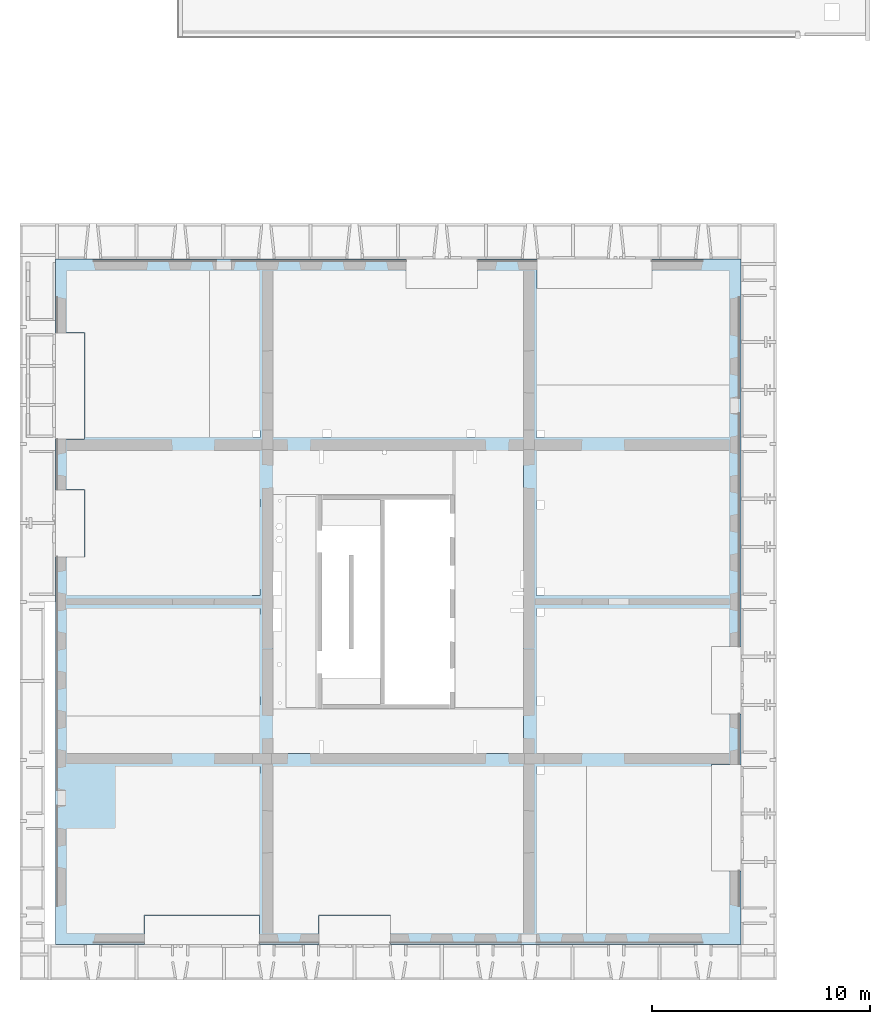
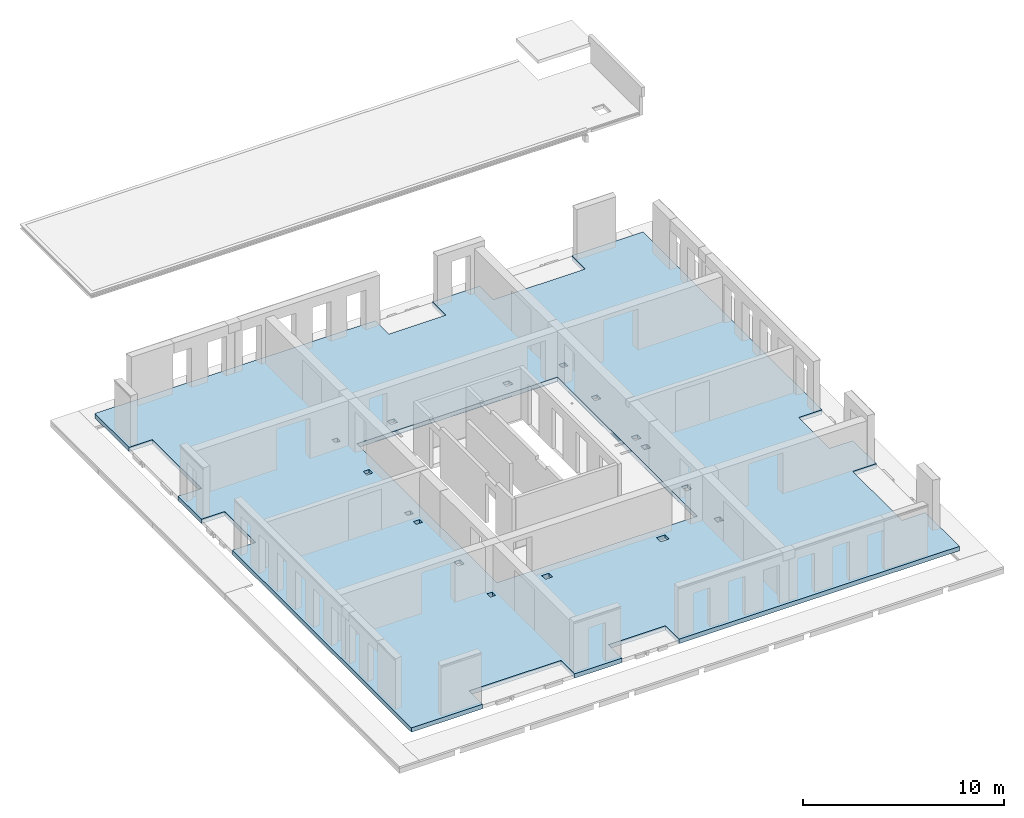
# One storey, part 25 of 27: 1 slab.
"""IFC2X3 building model written with IfcOpenShell, lengths in millimetres."""

import ifcopenshell
import ifcopenshell.guid

model = None  # the IFC model being written
_history = None  # IfcOwnerHistory: only IFC2X3 demands one
_inside = {}  # id of a spatial element -> (the spatial element, [elements in it])
_under = {}  # id of a project, library or spatial element -> (it, [spatial elements below it])
_declared = {}  # id of a project -> (the project, [libraries it declares])
_typed = {}  # id of a type object -> (the type object, [elements of that type])
_made_of = {}  # id of a material, layer set ... -> (it, [elements and type objects made of it])


def new_model(schema):
    """Start an empty IFC model of exactly this schema.

    Asked for "IFC4X3", IfcOpenShell would pick the latest addendum, in which some entities
    have other attributes; the version numbers below select the first issue.
    IFC2X3 requires an IfcOwnerHistory on every rooted entity: one is made here for all.
    """
    global model, _history
    if schema == "IFC4X3":
        model = ifcopenshell.file(schema_version=(4, 3, 0, 0))
    else:
        model = ifcopenshell.file(schema=schema)
    _inside.clear()
    _under.clear()
    _declared.clear()
    _typed.clear()
    _made_of.clear()
    _history = None
    if model.schema == "IFC2X3":
        org = make("IfcOrganization", Name="unknown")
        user = make(
            "IfcPersonAndOrganization",
            ThePerson=make("IfcPerson", FamilyName="unknown"),
            TheOrganization=org,
        )
        app = make(
            "IfcApplication",
            ApplicationDeveloper=org,
            Version="unknown",
            ApplicationFullName="unknown",
            ApplicationIdentifier="unknown",
        )
        _history = make(
            "IfcOwnerHistory",
            OwningUser=user,
            OwningApplication=app,
            ChangeAction="ADDED",
            CreationDate=0,
        )
    return model


def make(cls, **values):
    """One entity of the class cls with the attributes given. An attribute that is None is left unset."""
    return model.create_entity(
        cls, **{name: value for name, value in values.items() if value is not None}
    )


def entity(cls, *values):
    """Any entity or typed value of the class cls, its attributes in the order of the schema. None: left unset."""
    e = model.create_entity(cls)
    for i, value in enumerate(values):
        if value is not None:
            e[i] = value
    return e


def rooted(cls, **values):
    """An entity with a GlobalId (a new one), such as an element, a storey or a relation."""
    return make(cls, GlobalId=ifcopenshell.guid.new(), OwnerHistory=_history, **values)


def si_unit(unit_type, name, prefix=None):
    """IfcSIUnit, for example si_unit("LENGTHUNIT", "METRE", prefix="MILLI")."""
    return make("IfcSIUnit", UnitType=unit_type, Prefix=prefix, Name=name)


def converted_unit(unit_type, name, factor, base, dimensions=None, offset=None):
    """IfcConversionBasedUnit, such as the inch: factor (a typed value) times the base unit."""
    return make(
        "IfcConversionBasedUnit"
        if offset is None
        else "IfcConversionBasedUnitWithOffset",
        ConversionOffset=offset,
        Dimensions=None
        if dimensions is None
        else entity("IfcDimensionalExponents", *dimensions),
        UnitType=unit_type,
        Name=name,
        ConversionFactor=make(
            "IfcMeasureWithUnit", ValueComponent=factor, UnitComponent=base
        ),
    )


def derived_unit(unit_type, elements):
    """IfcDerivedUnit: a product of units, each with its exponent."""
    return make(
        "IfcDerivedUnit",
        Elements=[
            make("IfcDerivedUnitElement", Unit=unit, Exponent=power)
            for unit, power in elements
        ],
        UnitType=unit_type,
    )


def assignment(units):
    """IfcUnitAssignment: the units of a project."""
    return None if units is None else make("IfcUnitAssignment", Units=units)


def point(xyz):
    """IfcCartesianPoint."""
    return None if xyz is None else make("IfcCartesianPoint", Coordinates=xyz)


def direction(xyz):
    """IfcDirection."""
    return None if xyz is None else make("IfcDirection", DirectionRatios=xyz)


def frame(location, z_axis=None, x_axis=None):
    """IfcAxis2Placement3D, a coordinate frame: its origin and axes. An axis left out is left unset."""
    return make(
        "IfcAxis2Placement3D",
        Location=point(location),
        Axis=direction(z_axis),
        RefDirection=direction(x_axis),
    )


def origin():
    """The frame at (0, 0, 0) with its axes left unset."""
    return frame((0.0, 0.0, 0.0))


def place(relative_to, where):
    """IfcLocalPlacement: puts the frame where relative to a parent placement (None: the world)."""
    return make(
        "IfcLocalPlacement", PlacementRelTo=relative_to, RelativePlacement=where
    )


def context(
    kind, dimensions, precision=None, world=None, true_north=None, identifier=None
):
    """IfcGeometricRepresentationContext, for example the 3D "Model" context."""
    return make(
        "IfcGeometricRepresentationContext",
        ContextIdentifier=identifier,
        ContextType=kind,
        CoordinateSpaceDimension=dimensions,
        Precision=precision,
        WorldCoordinateSystem=world,
        TrueNorth=true_north,
    )


def subcontext(parent, identifier, kind, view, scale=None):
    """IfcGeometricRepresentationSubContext, for example "Body" below "Model"."""
    return make(
        "IfcGeometricRepresentationSubContext",
        ContextIdentifier=identifier,
        ContextType=kind,
        ParentContext=parent,
        TargetScale=scale,
        TargetView=view,
    )


def project(units=None, contexts=None):
    """IfcProject with its units and contexts."""
    return rooted(
        "IfcProject",
        Name="project",
        RepresentationContexts=contexts,
        UnitsInContext=assignment(units),
    )


def spatial(cls, under=None, at=None, **own):
    """A site, building, storey or space (cls), placed at a placement, below another one or the project."""
    s = rooted(cls, ObjectPlacement=at, **own)
    if under is not None:
        _under.setdefault(under.id(), (under, []))[1].append(s)
    return s


def faces_of(points, faces, orient=None, outer=None):
    """IfcFace entities. A face is a list of loops; a loop is a list of indices into points, from 0.

    orient and outer hold one flag for each loop. By default every Orientation is true, the
    first loop of a face is its IfcFaceOuterBound and the others are IfcFaceBound.
    """
    made = []
    for i, loops in enumerate(faces):
        bounds = []
        for j, loop in enumerate(loops):
            is_outer = j == 0 if outer is None else outer[i][j]
            bounds.append(
                make(
                    "IfcFaceOuterBound" if is_outer else "IfcFaceBound",
                    Bound=make("IfcPolyLoop", Polygon=[points[k] for k in loop]),
                    Orientation=True if orient is None else orient[i][j],
                )
            )
        made.append(make("IfcFace", Bounds=bounds))
    return made


def faceted_brep(points, faces, orient=None, outer=None, voids=None):
    """IfcFacetedBrep: a solid bounded by flat faces; with voids (closed shells), ...WithVoids."""
    shared = [point(p) for p in points]
    hull = make("IfcClosedShell", CfsFaces=faces_of(shared, faces, orient, outer))
    if voids is None:
        return make("IfcFacetedBrep", Outer=hull)
    return make(
        "IfcFacetedBrepWithVoids",
        Outer=hull,
        Voids=[
            make(cls, CfsFaces=faces_of(shared, fs, o, b)) for cls, fs, o, b in voids
        ],
    )


def shape(context_of_items, identifier, shape_type, items):
    """IfcShapeRepresentation: the items that make up one representation, for example the "Body"."""
    return make(
        "IfcShapeRepresentation",
        ContextOfItems=context_of_items,
        RepresentationIdentifier=identifier,
        RepresentationType=shape_type,
        Items=items,
    )


def material(Name=None, Category=None):
    """IfcMaterial."""
    return make("IfcMaterial", Name=Name, Category=Category)


def made_of(thing, what):
    """Note that an element or type object is made of a material, layer set ...; save() writes the relation."""
    if what is not None:
        _made_of.setdefault(what.id(), (what, []))[1].append(thing)
    return thing


def element(
    cls,
    number,
    at=None,
    inside=None,
    cuts=None,
    type_object=None,
    material=None,
    context=None,
    identifier="Body",
    shape_type=None,
    held_by="IfcProductDefinitionShape",
    body=None,
    shapes=None,
    **own,
):
    """One element of the class cls, such as IfcWall. Its Tag is "e" and its number.

    at: its placement. inside: the storey or other place that contains it. cuts: it is an
    opening in that element (IfcRelVoidsElement). A single representation is given by context,
    identifier, shape_type and body (its items); several are given by shapes. held_by: the class
    of the entity that holds the representations. save() writes the other relations.
    """
    e = rooted(cls, Tag="e%d" % number, ObjectPlacement=at, **own)
    if body is not None:
        shapes = [shape(context, identifier, shape_type, body)]
    if shapes is not None:
        e.Representation = make(held_by, Representations=shapes)
    if inside is not None:
        _inside.setdefault(inside.id(), (inside, []))[1].append(e)
    if cuts is not None:
        rooted(
            "IfcRelVoidsElement", RelatingBuildingElement=cuts, RelatedOpeningElement=e
        )
    if type_object is not None:
        _typed.setdefault(type_object.id(), (type_object, []))[1].append(e)
    return made_of(e, material)


def aggregate(whole, parts):
    """IfcRelAggregates: a whole, such as a stair, and the parts it consists of."""
    return rooted("IfcRelAggregates", RelatingObject=whole, RelatedObjects=parts)


def save(model, path):
    """Write the relations noted so far, then the file.

    IfcRelAggregates (storeys below a building ...), IfcRelContainedInSpatialStructure (elements
    in a storey), IfcRelDefinesByType, IfcRelAssociatesMaterial and IfcRelDeclares: one each for
    every whole, place, type object, material and project.
    """
    for whole, parts in _under.values():
        aggregate(whole, parts)
    for where, things in _inside.values():
        rooted(
            "IfcRelContainedInSpatialStructure",
            RelatedElements=things,
            RelatingStructure=where,
        )
    for kind, things in _typed.values():
        rooted("IfcRelDefinesByType", RelatedObjects=things, RelatingType=kind)
    for what, things in _made_of.values():
        rooted("IfcRelAssociatesMaterial", RelatedObjects=things, RelatingMaterial=what)
    for by, libraries in _declared.values():
        rooted("IfcRelDeclares", RelatingContext=by, RelatedDefinitions=libraries)
    model.write(path)


model = new_model("IFC2X3")

# Units and contexts
model_context = context("Model", 3, precision=0.01, world=origin(), true_north=direction((6.12303176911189e-17, 1.0)))
body_context = subcontext(model_context, "Body", "Model", "MODEL_VIEW")
ifc_project = project(units=[si_unit("LENGTHUNIT", "METRE", prefix="MILLI"), si_unit("AREAUNIT", "SQUARE_METRE"), si_unit("VOLUMEUNIT", "CUBIC_METRE"), converted_unit("PLANEANGLEUNIT", "DEGREE", entity("IfcRatioMeasure", 0.0174532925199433), si_unit("PLANEANGLEUNIT", "RADIAN"), dimensions=[0, 0, 0, 0, 0, 0, 0]), si_unit("MASSUNIT", "GRAM", prefix="KILO"), derived_unit("MASSDENSITYUNIT", [(si_unit("MASSUNIT", "GRAM", prefix="KILO"), 1), (si_unit("LENGTHUNIT", "METRE"), -3)]), si_unit("TIMEUNIT", "SECOND"), si_unit("FREQUENCYUNIT", "HERTZ"), si_unit("THERMODYNAMICTEMPERATUREUNIT", "DEGREE_CELSIUS"), derived_unit("THERMALTRANSMITTANCEUNIT", [(si_unit("MASSUNIT", "GRAM", prefix="KILO"), 1), (si_unit("THERMODYNAMICTEMPERATUREUNIT", "KELVIN"), -1), (si_unit("TIMEUNIT", "SECOND"), -3)]), derived_unit("VOLUMETRICFLOWRATEUNIT", [(si_unit("LENGTHUNIT", "METRE"), 3), (si_unit("TIMEUNIT", "SECOND"), -1)]), si_unit("ELECTRICCURRENTUNIT", "AMPERE"), si_unit("ELECTRICVOLTAGEUNIT", "VOLT"), si_unit("POWERUNIT", "WATT"), si_unit("FORCEUNIT", "NEWTON", prefix="KILO"), si_unit("ILLUMINANCEUNIT", "LUX"), si_unit("LUMINOUSFLUXUNIT", "LUMEN"), si_unit("LUMINOUSINTENSITYUNIT", "CANDELA"), derived_unit("USERDEFINED", [(si_unit("MASSUNIT", "GRAM", prefix="KILO"), -1), (si_unit("LENGTHUNIT", "METRE"), -2), (si_unit("TIMEUNIT", "SECOND"), 3), (si_unit("LUMINOUSFLUXUNIT", "LUMEN"), 1)]), derived_unit("LINEARVELOCITYUNIT", [(si_unit("LENGTHUNIT", "METRE"), 1), (si_unit("TIMEUNIT", "SECOND"), -1)]), si_unit("PRESSUREUNIT", "PASCAL"), derived_unit("USERDEFINED", [(si_unit("LENGTHUNIT", "METRE"), -2), (si_unit("MASSUNIT", "GRAM", prefix="KILO"), 1), (si_unit("TIMEUNIT", "SECOND"), -2)])], contexts=[model_context])

# Site, building, storey
site_placement = place(None, origin())
site = spatial("IfcSite", under=ifc_project, at=site_placement, Name="Default", CompositionType="ELEMENT")
building_placement = place(site_placement, origin())
building = spatial("IfcBuilding", under=site, at=building_placement, Name="niet gebruiken", CompositionType="ELEMENT")
storey_placement = place(building_placement, frame((0.0, 0.0, 18000.0)))
storey = spatial("IfcBuildingStorey", under=building, at=storey_placement, Name="05 vijfde verdieping", CompositionType="ELEMENT", Elevation=18000.0)

# Slab
ifc_material = material(Name="NLRS_f2_beton ihwg")
slab_placement = place(storey_placement, origin())
element("IfcSlab", 1, at=slab_placement, inside=storey, material=ifc_material, Name="Floor:NLRS_23.21_FL_beton breedplaat d=70/270_gen", ObjectType="Floor:NLRS_23.21_FL_beton breedplaat d=70/270_gen", PredefinedType="FLOOR", context=body_context, shape_type="Brep", body=[
    faceted_brep([(126540.0, 2290.0, -360.0), (130100.0, 2290.0, -360.0), (130100.0, 3125.0, -360.0), (135410.0, 3125.0, -360.0), (135410.0, 9960.0, -360.0), (128760.0, 9960.0, -360.0), (128760.0, 7130.0, -360.0), (126540.0, 7130.0, -360.0), (148090.0, 9960.0, -360.0), (148090.0, 2290.0, -360.0), (150400.0, 2290.0, -360.0), (156960.0, 2290.0, -360.0), (156960.0, 5150.0, -360.0), (156125.0, 5150.0, -360.0), (156125.0, 9960.0, -360.0), (150400.0, 9960.0, -360.0), (135990.0, 9960.0, -360.0), (135990.0, 2290.0, -360.0), (138100.0, 2290.0, -360.0), (138100.0, 3125.0, -360.0), (141400.0, 3125.0, -360.0), (141400.0, 2290.0, -360.0), (147510.0, 2290.0, -360.0), (147510.0, 9960.0, -360.0), (126540.0, 10540.0, -360.0), (135410.0, 10540.0, -360.0), (135410.0, 12266.0, -360.0), (135410.0, 17210.0, -360.0), (126540.0, 17210.0, -360.0), (126540.0, 12266.0, -360.0), (148090.0, 25040.0, -360.0), (156960.0, 25040.0, -360.0), (156960.0, 27440.0, -360.0), (156960.0, 32710.0, -360.0), (153400.0, 32710.0, -360.0), (153400.0, 31875.0, -360.0), (148090.0, 31875.0, -360.0), (148090.0, 27440.0, -360.0), (148090.0, 10540.0, -360.0), (156960.0, 10540.0, -360.0), (156960.0, 12350.0, -360.0), (156125.0, 12350.0, -360.0), (156125.0, 15450.0, -360.0), (156960.0, 15450.0, -360.0), (156960.0, 17210.0, -360.0), (148090.0, 17210.0, -360.0), (148090.0, 17790.0, -360.0), (156960.0, 17790.0, -360.0), (156960.0, 24460.0, -360.0), (148090.0, 24460.0, -360.0), (135410.0, 25040.0, -360.0), (135410.0, 32710.0, -360.0), (133100.0, 32710.0, -360.0), (126540.0, 32710.0, -360.0), (126540.0, 29850.0, -360.0), (127375.0, 29850.0, -360.0), (127375.0, 25040.0, -360.0), (133100.0, 25040.0, -360.0), (135990.0, 25040.0, -360.0), (147510.0, 25040.0, -360.0), (147510.0, 32710.0, -360.0), (145400.0, 32710.0, -360.0), (145400.0, 31875.0, -360.0), (142100.0, 31875.0, -360.0), (142100.0, 32710.0, -360.0), (135990.0, 32710.0, -360.0), (135410.0, 17790.0, -360.0), (135410.0, 24460.0, -360.0), (126540.0, 24460.0, -360.0), (126540.0, 22650.0, -360.0), (127375.0, 22650.0, -360.0), (127375.0, 19550.0, -360.0), (126540.0, 19550.0, -360.0), (126540.0, 17790.0, -360.0), (147500.0, 24450.0, -360.0), (136000.0, 24450.0, -360.0), (136000.0, 17800.0, -360.0), (136000.0, 17200.0, -360.0), (136000.0, 10550.0, -360.0), (147500.0, 10550.0, -360.0), (147500.0, 17200.0, -360.0), (147500.0, 17800.0, -360.0), (126020.0, 29840.0, -360.0), (126020.0, 33230.0, -360.0), (126520.0, 33230.0, -360.0), (142110.0, 33230.0, -360.0), (142110.0, 31885.0, -360.0), (145390.0, 31885.0, -360.0), (145390.0, 33230.0, -360.0), (148110.0, 33230.0, -360.0), (148110.0, 31885.0, -360.0), (153390.0, 31885.0, -360.0), (153390.0, 33230.0, -360.0), (156980.0, 33230.0, -360.0), (157480.0, 33230.0, -360.0), (157480.0, 15440.0, -360.0), (156135.0, 15440.0, -360.0), (156135.0, 12360.0, -360.0), (157480.0, 12360.0, -360.0), (157480.0, 10040.0, -360.0), (156135.0, 10040.0, -360.0), (156135.0, 5160.0, -360.0), (157480.0, 5160.0, -360.0), (157480.0, 1770.0, -360.0), (156980.0, 1770.0, -360.0), (141390.0, 1770.0, -360.0), (141390.0, 3115.0, -360.0), (138110.0, 3115.0, -360.0), (138110.0, 1770.0, -360.0), (135390.0, 1770.0, -360.0), (135390.0, 3115.0, -360.0), (130110.0, 3115.0, -360.0), (130110.0, 1770.0, -360.0), (126520.0, 1770.0, -360.0), (126020.0, 1770.0, -360.0), (126020.0, 17800.0, -360.0), (126020.0, 19560.0, -360.0), (127365.0, 19560.0, -360.0), (127365.0, 22640.0, -360.0), (126020.0, 22640.0, -360.0), (126020.0, 24960.0, -360.0), (127365.0, 24960.0, -360.0), (127365.0, 29840.0, -360.0), (126020.0, 33230.0, -90.0), (126020.0, 29840.0, -90.0), (127365.0, 29840.0, -90.0), (127365.0, 24960.0, -90.0), (126020.0, 24960.0, -90.0), (126020.0, 22640.0, -90.0), (127365.0, 22640.0, -90.0), (127365.0, 19560.0, -90.0), (126020.0, 19560.0, -90.0), (126020.0, 1770.0, -90.0), (130110.0, 1770.0, -90.0), (130110.0, 3115.0, -90.0), (135390.0, 3115.0, -90.0), (135390.0, 1770.0, -90.0), (138110.0, 1770.0, -90.0), (138110.0, 3115.0, -90.0), (141390.0, 3115.0, -90.0), (141390.0, 1770.0, -90.0), (157480.0, 1770.0, -90.0), (157480.0, 5160.0, -90.0), (156135.0, 5160.0, -90.0), (156135.0, 10040.0, -90.0), (157480.0, 10040.0, -90.0), (157480.0, 12360.0, -90.0), (156135.0, 12360.0, -90.0), (156135.0, 15440.0, -90.0), (157480.0, 15440.0, -90.0), (157480.0, 33230.0, -90.0), (153390.0, 33230.0, -90.0), (153390.0, 31885.0, -90.0), (148110.0, 31885.0, -90.0), (148110.0, 33230.0, -90.0), (145390.0, 33230.0, -90.0), (145390.0, 31885.0, -90.0), (142110.0, 31885.0, -90.0), (142110.0, 33230.0, -90.0), (135090.0, 25370.0, -90.0), (135400.0, 25370.0, -90.0), (135400.0, 25050.0, -90.0), (135090.0, 25050.0, -90.0), (135050.0, 21860.0, -90.0), (135050.0, 22210.0, -90.0), (135400.0, 22210.0, -90.0), (135400.0, 21860.0, -90.0), (135050.0, 17200.0, -90.0), (135400.0, 17200.0, -90.0), (135400.0, 16920.0, -90.0), (135050.0, 16920.0, -90.0), (135050.0, 12765.0, -90.0), (135050.0, 13165.0, -90.0), (135400.0, 13165.0, -90.0), (135400.0, 12765.0, -90.0), (135080.0, 9950.0, -90.0), (135400.0, 9950.0, -90.0), (135400.0, 9620.0, -90.0), (135080.0, 9620.0, -90.0), (138225.0, 9950.0, -90.0), (138645.0, 9950.0, -90.0), (138645.0, 9590.0, -90.0), (138225.0, 9590.0, -90.0), (144815.0, 9950.0, -90.0), (145315.0, 9950.0, -90.0), (145315.0, 9550.0, -90.0), (144815.0, 9550.0, -90.0), (148100.0, 9950.0, -90.0), (148460.0, 9950.0, -90.0), (148460.0, 9590.0, -90.0), (148100.0, 9590.0, -90.0), (148100.0, 12735.0, -90.0), (148100.0, 13165.0, -90.0), (148450.0, 13165.0, -90.0), (148450.0, 12735.0, -90.0), (148100.0, 17200.0, -90.0), (148450.0, 17200.0, -90.0), (148450.0, 16850.0, -90.0), (148100.0, 16850.0, -90.0), (148450.0, 22145.0, -90.0), (148450.0, 21765.0, -90.0), (148100.0, 21765.0, -90.0), (148100.0, 22145.0, -90.0), (148100.0, 25370.0, -90.0), (148460.0, 25370.0, -90.0), (148460.0, 25050.0, -90.0), (148100.0, 25050.0, -90.0), (144905.0, 25390.0, -90.0), (145275.0, 25390.0, -90.0), (145275.0, 25050.0, -90.0), (144905.0, 25050.0, -90.0), (138275.0, 25390.0, -90.0), (138675.0, 25390.0, -90.0), (138675.0, 25050.0, -90.0), (138275.0, 25050.0, -90.0), (135050.0, 18080.0, -90.0), (135400.0, 18080.0, -90.0), (135400.0, 17800.0, -90.0), (135050.0, 17800.0, -90.0), (148100.0, 18150.0, -90.0), (148450.0, 18150.0, -90.0), (148450.0, 17800.0, -90.0), (148100.0, 17800.0, -90.0), (136000.0, 24450.0, -90.0), (138150.0, 24450.0, -90.0), (138300.0, 24450.0, -90.0), (145200.02189507, 24450.0, -90.0), (145350.02189507, 24450.0, -90.0), (147500.0, 24450.0, -90.0), (147500.0, 18925.0, -90.0), (147500.0, 18125.0, -90.0), (147500.0, 17950.0, -90.0), (147500.0, 17800.0, -90.0), (147500.0, 17200.0, -90.0), (147500.0, 17045.0, -90.0), (147500.0, 10550.0, -90.0), (145350.0, 10550.0, -90.0), (145205.0, 10550.0, -90.0), (138300.0, 10550.0, -90.0), (138150.0, 10550.0, -90.0), (136000.0, 10550.0, -90.0), (136000.0, 16140.0, -90.0), (136000.0, 17200.0, -90.0), (136000.0, 17800.0, -90.0), (136000.0, 18900.0, -90.0), (126020.0, 29840.0, -140.0), (135090.0, 25370.0, -290.0), (135400.0, 25370.0, -290.0), (135090.0, 25050.0, -290.0), (135400.0, 25050.0, -290.0), (142110.0, 33230.0, -140.0), (142110.0, 31885.0, -140.0), (145390.0, 31885.0, -140.0), (145390.0, 33230.0, -140.0), (153390.0, 33230.0, -140.0), (157480.0, 15440.0, -140.0), (156135.0, 15440.0, -140.0), (156135.0, 12360.0, -140.0), (157480.0, 12360.0, -140.0), (157480.0, 5160.0, -140.0), (141390.0, 1770.0, -140.0), (141390.0, 3115.0, -140.0), (138110.0, 3115.0, -140.0), (138110.0, 1770.0, -140.0), (130110.0, 1770.0, -140.0), (126020.0, 19560.0, -140.0), (127365.0, 19560.0, -140.0), (127365.0, 22640.0, -140.0), (126020.0, 22640.0, -140.0), (147500.0, 24450.0, -330.0), (145350.02189507, 24450.0, -330.0), (145200.02189507, 24450.0, -330.0), (144350.0, 24450.0, -330.0), (144350.0, 24450.0, -260.0), (145200.02189507, 24450.0, -260.0), (145350.02189507, 24450.0, -260.0), (147500.0, 24450.0, -260.0), (136000.0, 24450.0, -260.0), (138150.0, 24450.0, -260.0), (138300.0, 24450.0, -260.0), (144270.0, 24450.0, -260.0), (144270.0, 24450.0, -330.0), (138300.0, 24450.0, -330.0), (138150.0, 24450.0, -330.0), (136000.0, 24450.0, -330.0), (136000.0, 22420.0, -330.0), (136000.0, 22420.0, -260.0), (136000.0, 10550.0, -260.0), (136000.0, 12580.0, -260.0), (136000.0, 12580.0, -330.0), (136000.0, 10550.0, -330.0), (138150.0, 10550.0, -330.0), (138300.0, 10550.0, -330.0), (145205.0, 10550.0, -330.0), (145350.0, 10550.0, -330.0), (147500.0, 10550.0, -330.0), (147500.0, 12580.0, -330.0), (147500.0, 12580.0, -260.0), (147500.0, 10550.0, -260.0), (147500.0, 18925.0, -260.0), (147500.0, 18125.0, -260.0), (147500.0, 17950.0, -260.0), (147500.0, 17800.0, -260.0), (147500.0, 17200.0, -260.0), (147500.0, 17045.0, -260.0), (147500.0, 12660.0, -260.0), (147500.0, 12660.0, -330.0), (147500.0, 17045.0, -330.0), (147500.0, 17200.0, -330.0), (147500.0, 17800.0, -330.0), (147500.0, 17950.0, -330.0), (147500.0, 18125.0, -330.0), (147500.0, 18925.0, -330.0), (135050.0, 21860.0, -290.0), (135050.0, 22210.0, -290.0), (135400.0, 21860.0, -290.0), (135400.0, 22210.0, -290.0), (135050.0, 17200.0, -290.0), (135400.0, 17200.0, -290.0), (135050.0, 16920.0, -290.0), (135400.0, 16920.0, -290.0), (135050.0, 12765.0, -290.0), (135050.0, 13165.0, -290.0), (135400.0, 12765.0, -290.0), (135400.0, 13165.0, -290.0), (135080.0, 9950.0, -290.0), (135400.0, 9950.0, -290.0), (135080.0, 9620.0, -290.0), (135400.0, 9620.0, -290.0), (138225.0, 9950.0, -290.0), (138645.0, 9950.0, -290.0), (138225.0, 9590.0, -290.0), (138645.0, 9590.0, -290.0), (144815.0, 9950.0, -290.0), (145315.0, 9950.0, -290.0), (144815.0, 9550.0, -290.0), (145315.0, 9550.0, -290.0), (148100.0, 9950.0, -290.0), (148460.0, 9950.0, -290.0), (148100.0, 9590.0, -290.0), (148460.0, 9590.0, -290.0), (148100.0, 12735.0, -290.0), (148100.0, 13165.0, -290.0), (148450.0, 12735.0, -290.0), (148450.0, 13165.0, -290.0), (148100.0, 17200.0, -290.0), (148450.0, 17200.0, -290.0), (148100.0, 16850.0, -290.0), (148450.0, 16850.0, -290.0), (148450.0, 22145.0, -290.0), (148450.0, 21765.0, -290.0), (148100.0, 22145.0, -290.0), (148100.0, 21765.0, -290.0), (148100.0, 25370.0, -290.0), (148460.0, 25370.0, -290.0), (148100.0, 25050.0, -290.0), (148460.0, 25050.0, -290.0), (144905.0, 25390.0, -290.0), (145275.0, 25390.0, -290.0), (144905.0, 25050.0, -290.0), (145275.0, 25050.0, -290.0), (138275.0, 25390.0, -290.0), (138675.0, 25390.0, -290.0), (138275.0, 25050.0, -290.0), (138675.0, 25050.0, -290.0), (135050.0, 18080.0, -290.0), (135400.0, 18080.0, -290.0), (135050.0, 17800.0, -290.0), (135400.0, 17800.0, -290.0), (148100.0, 18150.0, -290.0), (148450.0, 18150.0, -290.0), (148100.0, 17800.0, -290.0), (148450.0, 17800.0, -290.0), (148110.0, 33230.0, -140.0), (157480.0, 10040.0, -140.0), (156135.0, 10040.0, -140.0), (156135.0, 5160.0, -140.0), (135390.0, 1770.0, -140.0), (135390.0, 3115.0, -140.0), (130110.0, 3115.0, -140.0), (126020.0, 24960.0, -140.0), (127365.0, 24960.0, -140.0), (127365.0, 29840.0, -140.0), (148110.0, 31885.0, -140.0), (153390.0, 31885.0, -140.0), (126540.0, 24460.0, -290.0), (135410.0, 24460.0, -290.0), (135410.0, 17790.0, -290.0), (126540.0, 17790.0, -290.0), (126540.0, 19550.0, -290.0), (127375.0, 19550.0, -290.0), (127375.0, 22650.0, -290.0), (126540.0, 22650.0, -290.0), (126540.0, 2290.0, -290.0), (130100.0, 2290.0, -290.0), (128760.0, 7130.0, -290.0), (126540.0, 7130.0, -290.0), (128760.0, 9960.0, -290.0), (135410.0, 9960.0, -290.0), (135410.0, 3125.0, -290.0), (148090.0, 2290.0, -290.0), (150400.0, 2290.0, -290.0), (156960.0, 2290.0, -290.0), (148090.0, 9960.0, -290.0), (156125.0, 9960.0, -290.0), (150400.0, 9960.0, -290.0), (135990.0, 9960.0, -290.0), (135990.0, 2290.0, -290.0), (147510.0, 9960.0, -290.0), (147510.0, 2290.0, -290.0), (138100.0, 2290.0, -290.0), (135410.0, 10540.0, -290.0), (135410.0, 12266.0, -290.0), (135410.0, 17210.0, -290.0), (126540.0, 10540.0, -290.0), (126540.0, 17210.0, -290.0), (126540.0, 12266.0, -290.0), (130100.0, 3125.0, -290.0), (141400.0, 2290.0, -290.0), (141400.0, 3125.0, -290.0), (138100.0, 3125.0, -290.0), (156960.0, 5150.0, -290.0), (156960.0, 25040.0, -290.0), (156960.0, 27440.0, -290.0), (156960.0, 32710.0, -290.0), (148090.0, 25040.0, -290.0), (148090.0, 31875.0, -290.0), (148090.0, 27440.0, -290.0), (148090.0, 10540.0, -290.0), (156960.0, 10540.0, -290.0), (148090.0, 17210.0, -290.0), (156960.0, 17210.0, -290.0), (156960.0, 12350.0, -290.0), (148090.0, 17790.0, -290.0), (156960.0, 17790.0, -290.0), (148090.0, 24460.0, -290.0), (156960.0, 24460.0, -290.0), (156125.0, 5150.0, -290.0), (156960.0, 15450.0, -290.0), (156125.0, 15450.0, -290.0), (156125.0, 12350.0, -290.0), (153400.0, 32710.0, -290.0), (135410.0, 32710.0, -290.0), (133100.0, 32710.0, -290.0), (126540.0, 32710.0, -290.0), (135410.0, 25040.0, -290.0), (127375.0, 25040.0, -290.0), (133100.0, 25040.0, -290.0), (135990.0, 25040.0, -290.0), (147510.0, 25040.0, -290.0), (135990.0, 32710.0, -290.0), (147510.0, 32710.0, -290.0), (145400.0, 32710.0, -290.0), (153400.0, 31875.0, -290.0), (142100.0, 32710.0, -290.0), (142100.0, 31875.0, -290.0), (145400.0, 31875.0, -290.0), (126540.0, 29850.0, -290.0), (127375.0, 29850.0, -290.0), (147510.0, 10540.0, -330.0), (147510.0, 12580.0, -330.0), (135990.0, 12580.0, -330.0), (135990.0, 10540.0, -330.0), (144350.0, 24460.0, -260.0), (147510.0, 24460.0, -260.0), (147510.0, 12660.0, -260.0), (135990.0, 22420.0, -330.0), (135990.0, 24460.0, -330.0), (135990.0, 24460.0, -260.0), (135990.0, 22420.0, -260.0), (144270.0, 24460.0, -330.0), (144270.0, 24460.0, -260.0), (144350.0, 24460.0, -330.0), (147510.0, 24460.0, -330.0), (147510.0, 12660.0, -330.0), (147510.0, 10540.0, -260.0), (147510.0, 12580.0, -260.0), (135990.0, 10540.0, -260.0), (135990.0, 12580.0, -260.0), (138150.0, 10550.0, -260.0), (138300.0, 10550.0, -260.0), (145205.0, 10550.0, -260.0), (145350.0, 10550.0, -260.0)], [[[0, 1, 2, 3, 4, 5, 6, 7], [8, 9, 10, 11, 12, 13, 14, 15], [16, 17, 18, 19, 20, 21, 22, 23], [24, 25, 26, 27, 28, 29], [30, 31, 32, 33, 34, 35, 36, 37], [38, 39, 40, 41, 42, 43, 44, 45], [46, 47, 48, 49], [50, 51, 52, 53, 54, 55, 56, 57], [58, 59, 60, 61, 62, 63, 64, 65], [66, 67, 68, 69, 70, 71, 72, 73], [74, 75, 76, 77, 78, 79, 80, 81], [82, 83, 84, 85, 86, 87, 88, 89, 90, 91, 92, 93, 94, 95, 96, 97, 98, 99, 100, 101, 102, 103, 104, 105, 106, 107, 108, 109, 110, 111, 112, 113, 114, 115, 116, 117, 118, 119, 120, 121, 122]], [[123, 124, 125, 126, 127, 128, 129, 130, 131, 132, 133, 134, 135, 136, 137, 138, 139, 140, 141, 142, 143, 144, 145, 146, 147, 148, 149, 150, 151, 152, 153, 154, 155, 156, 157, 158], [159, 160, 161, 162], [163, 164, 165, 166], [167, 168, 169, 170], [171, 172, 173, 174], [175, 176, 177, 178], [179, 180, 181, 182], [183, 184, 185, 186], [187, 188, 189, 190], [191, 192, 193, 194], [195, 196, 197, 198], [199, 200, 201, 202], [203, 204, 205, 206], [207, 208, 209, 210], [211, 212, 213, 214], [215, 216, 217, 218], [219, 220, 221, 222], [223, 224, 225, 226, 227, 228, 229, 230, 231, 232, 233, 234, 235, 236, 237, 238, 239, 240, 241, 242, 243, 244]], [[83, 82, 245, 124, 123]], [[160, 159, 246, 247]], [[159, 162, 248, 246]], [[162, 161, 249, 248]], [[161, 160, 247, 249]], [[85, 84, 83, 123, 158, 250]], [[86, 85, 250, 158, 157, 251]], [[87, 86, 251, 157, 156, 252]], [[88, 87, 252, 156, 155, 253]], [[94, 93, 92, 254, 151, 150]], [[95, 94, 150, 149, 255]], [[96, 95, 255, 149, 148, 256]], [[97, 96, 256, 148, 147, 257]], [[98, 97, 257, 147, 146, 258]], [[103, 102, 259, 142, 141]], [[105, 104, 103, 141, 140, 260]], [[106, 105, 260, 140, 139, 261]], [[107, 106, 261, 139, 138, 262]], [[108, 107, 262, 138, 137, 263]], [[114, 113, 112, 264, 133, 132]], [[116, 115, 114, 132, 131, 265]], [[117, 116, 265, 131, 130, 266]], [[118, 117, 266, 130, 129, 267]], [[119, 118, 267, 129, 128, 268]], [[75, 74, 269, 270, 271, 272, 273, 274, 275, 276, 228, 227, 226, 225, 224, 223, 277, 278, 279, 280, 281, 282, 283, 284]], [[78, 77, 76, 75, 284, 285, 286, 277, 223, 244, 243, 242, 241, 240, 287, 288, 289, 290]], [[79, 78, 290, 291, 292, 293, 294, 295]], [[74, 81, 80, 79, 295, 296, 297, 298, 235, 234, 233, 232, 231, 230, 229, 228, 276, 299, 300, 301, 302, 303, 304, 305, 306, 307, 308, 309, 310, 311, 312, 269]], [[164, 163, 313, 314]], [[163, 166, 315, 313]], [[166, 165, 316, 315]], [[165, 164, 314, 316]], [[168, 167, 317, 318]], [[167, 170, 319, 317]], [[170, 169, 320, 319]], [[169, 168, 318, 320]], [[172, 171, 321, 322]], [[171, 174, 323, 321]], [[174, 173, 324, 323]], [[173, 172, 322, 324]], [[176, 175, 325, 326]], [[175, 178, 327, 325]], [[178, 177, 328, 327]], [[177, 176, 326, 328]], [[180, 179, 329, 330]], [[179, 182, 331, 329]], [[182, 181, 332, 331]], [[181, 180, 330, 332]], [[184, 183, 333, 334]], [[183, 186, 335, 333]], [[186, 185, 336, 335]], [[185, 184, 334, 336]], [[188, 187, 337, 338]], [[187, 190, 339, 337]], [[190, 189, 340, 339]], [[189, 188, 338, 340]], [[192, 191, 341, 342]], [[191, 194, 343, 341]], [[194, 193, 344, 343]], [[193, 192, 342, 344]], [[196, 195, 345, 346]], [[195, 198, 347, 345]], [[198, 197, 348, 347]], [[197, 196, 346, 348]], [[200, 199, 349, 350]], [[199, 202, 351, 349]], [[202, 201, 352, 351]], [[201, 200, 350, 352]], [[204, 203, 353, 354]], [[203, 206, 355, 353]], [[206, 205, 356, 355]], [[205, 204, 354, 356]], [[208, 207, 357, 358]], [[207, 210, 359, 357]], [[210, 209, 360, 359]], [[209, 208, 358, 360]], [[212, 211, 361, 362]], [[211, 214, 363, 361]], [[214, 213, 364, 363]], [[213, 212, 362, 364]], [[216, 215, 365, 366]], [[215, 218, 367, 365]], [[218, 217, 368, 367]], [[217, 216, 366, 368]], [[220, 219, 369, 370]], [[219, 222, 371, 369]], [[222, 221, 372, 371]], [[221, 220, 370, 372]], [[89, 88, 253, 155, 154, 373]], [[99, 98, 258, 146, 145, 374]], [[100, 99, 374, 145, 144, 375]], [[101, 100, 375, 144, 143, 376]], [[102, 101, 376, 143, 142, 259]], [[109, 108, 263, 137, 136, 377]], [[110, 109, 377, 136, 135, 378]], [[111, 110, 378, 135, 134, 379]], [[112, 111, 379, 134, 133, 264]], [[120, 119, 268, 128, 127, 380]], [[121, 120, 380, 127, 126, 381]], [[122, 121, 381, 126, 125, 382]], [[82, 122, 382, 125, 124, 245]], [[90, 89, 373, 154, 153, 383]], [[91, 90, 383, 153, 152, 384]], [[92, 91, 384, 152, 151, 254]], [[314, 313, 315, 316], [366, 365, 367, 368], [385, 386, 387, 388, 389, 390, 391, 392]], [[393, 394, 1, 0]], [[395, 396, 7, 6]], [[397, 395, 6, 5]], [[396, 393, 0, 7]], [[398, 397, 5, 4]], [[399, 398, 4, 3]], [[9, 400, 401, 402, 11, 10]], [[403, 400, 9, 8]], [[403, 8, 15, 14, 404, 405]], [[406, 407, 17, 16]], [[408, 406, 16, 23]], [[409, 408, 23, 22]], [[407, 410, 18, 17]], [[25, 411, 412, 413, 27, 26]], [[414, 411, 25, 24]], [[414, 24, 29, 28, 415, 416]], [[417, 399, 3, 2]], [[394, 417, 2, 1]], [[418, 409, 22, 21]], [[419, 418, 21, 20]], [[420, 419, 20, 19]], [[410, 420, 19, 18]], [[402, 421, 12, 11]], [[31, 422, 423, 424, 33, 32]], [[425, 422, 31, 30]], [[425, 30, 37, 36, 426, 427]], [[428, 429, 39, 38]], [[430, 428, 38, 45]], [[431, 430, 45, 44]], [[429, 432, 40, 39]], [[433, 434, 47, 46]], [[435, 433, 46, 49]], [[436, 435, 49, 48]], [[434, 436, 48, 47]], [[437, 404, 14, 13]], [[421, 437, 13, 12]], [[438, 431, 44, 43]], [[439, 438, 43, 42]], [[440, 439, 42, 41]], [[432, 440, 41, 40]], [[424, 441, 34, 33]], [[51, 442, 443, 444, 53, 52]], [[445, 442, 51, 50]], [[445, 50, 57, 56, 446, 447]], [[448, 449, 59, 58]], [[450, 448, 58, 65]], [[451, 452, 61, 60]], [[449, 451, 60, 59]], [[453, 426, 36, 35]], [[441, 453, 35, 34]], [[454, 450, 65, 64]], [[455, 454, 64, 63]], [[456, 455, 63, 62]], [[452, 456, 62, 61]], [[444, 457, 54, 53]], [[387, 386, 67, 66]], [[388, 387, 66, 73]], [[389, 388, 73, 72]], [[386, 385, 68, 67]], [[413, 415, 28, 27]], [[458, 446, 56, 55]], [[457, 458, 55, 54]], [[390, 389, 72, 71]], [[391, 390, 71, 70]], [[392, 391, 70, 69]], [[385, 392, 69, 68]], [[459, 460, 296, 295, 294, 293, 292, 291, 290, 289, 461, 462]], [[463, 464, 465, 305, 304, 303, 302, 301, 300, 299, 276, 275, 274, 273]], [[466, 467, 468, 469]], [[467, 470, 471, 468]], [[472, 473, 464, 463]], [[473, 474, 465, 464]], [[460, 459, 475, 476]], [[459, 462, 477, 475]], [[462, 461, 478, 477]], [[472, 463, 273, 272]], [[465, 474, 306, 305]], [[478, 461, 289, 288]], [[471, 470, 281, 280]], [[466, 469, 286, 285]], [[460, 476, 297, 296]], [[469, 468, 471, 280, 279, 278, 277, 286]], [[476, 475, 477, 478, 288, 287, 479, 480, 481, 482, 298, 297]], [[467, 466, 285, 284, 283, 282, 281, 470]], [[473, 472, 272, 271, 270, 269, 312, 311, 310, 309, 308, 307, 306, 474]], [[417, 394, 393, 396, 395, 397, 398, 399], [326, 325, 327, 328]], [[411, 414, 416, 415, 413, 412], [318, 317, 319, 320], [322, 321, 323, 324]], [[442, 445, 447, 446, 458, 457, 444, 443], [247, 246, 248, 249]], [[410, 407, 406, 408, 409, 418, 419, 420], [330, 329, 331, 332], [334, 333, 335, 336]], [[451, 449, 448, 450, 454, 455, 456, 452], [362, 361, 363, 364], [358, 357, 359, 360]], [[400, 403, 405, 404, 437, 421, 402, 401], [338, 337, 339, 340]], [[432, 429, 428, 430, 431, 438, 439, 440], [342, 341, 343, 344], [346, 345, 347, 348]], [[436, 434, 433, 435], [370, 369, 371, 372], [350, 349, 351, 352]], [[422, 425, 427, 426, 453, 441, 424, 423], [354, 353, 355, 356]], [[240, 239, 238, 237, 236, 235, 298, 482, 481, 480, 479, 287]]], outer=[[False, False, False, False, False, False, False, False, False, False, False, True], [True, False, False, False, False, False, False, False, False, False, False, False, False, False, False, False, False, False], [True], [True], [True], [True], [True], [True], [True], [True], [True], [True], [True], [True], [True], [True], [True], [True], [True], [True], [True], [True], [True], [True], [True], [True], [True], [True], [True], [True], [True], [True], [True], [True], [True], [True], [True], [True], [True], [True], [True], [True], [True], [True], [True], [True], [True], [True], [True], [True], [True], [True], [True], [True], [True], [True], [True], [True], [True], [True], [True], [True], [True], [True], [True], [True], [True], [True], [True], [True], [True], [True], [True], [True], [True], [True], [True], [True], [True], [True], [True], [True], [True], [True], [True], [True], [True], [True], [True], [True], [True], [True], [True], [True], [True], [True], [True], [True], [True], [True], [True], [True], [True], [True], [True], [True], [False, False, True], [True], [True], [True], [True], [True], [True], [True], [True], [True], [True], [True], [True], [True], [True], [True], [True], [True], [True], [True], [True], [True], [True], [True], [True], [True], [True], [True], [True], [True], [True], [True], [True], [True], [True], [True], [True], [True], [True], [True], [True], [True], [True], [True], [True], [True], [True], [True], [True], [True], [True], [True], [True], [True], [True], [True], [True], [True], [True], [True], [True], [True], [True], [True], [True], [True], [True], [True], [True], [True], [True], [True], [True], [True], [True], [True], [True], [True], [True], [True], [True], [True], [True], [True], [True], [True], [True, False], [True, False, False], [True, False], [True, False, False], [True, False, False], [True, False], [True, False, False], [True, False, False], [True, False], [True]]),
])

save(model, "model.ifc")
